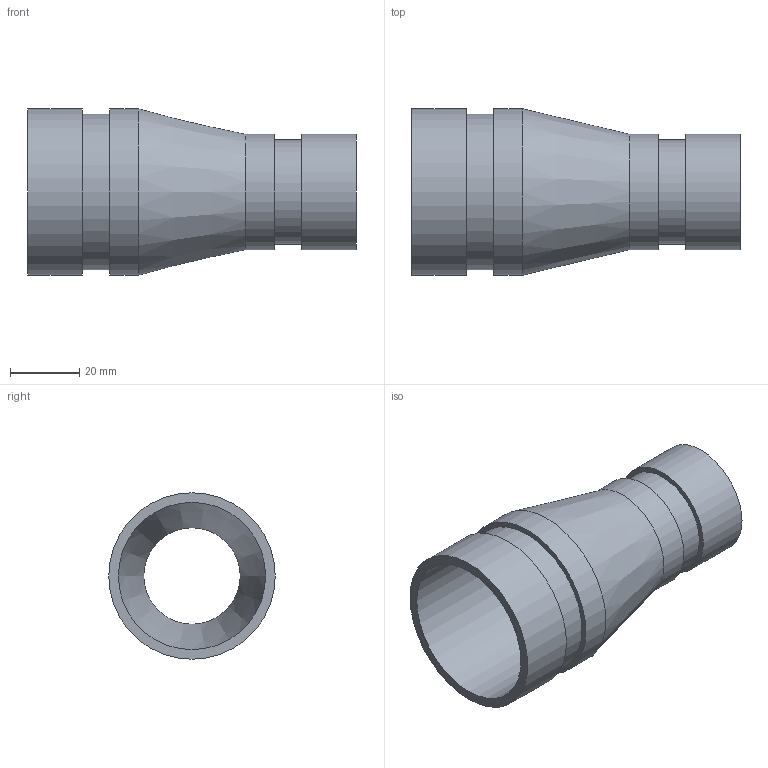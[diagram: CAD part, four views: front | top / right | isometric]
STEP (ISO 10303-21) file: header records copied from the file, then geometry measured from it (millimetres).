
FILE_DESCRIPTION(/* description */ ('VIC REDUCER CONCENTRIC No 450-SS','CAx-IF Rec.Pracs.---Representation and Presentation of Product Manufacturing Information (PMI)---4.0---2014-10-13'),/* implementation_level */ '2;1');
FILE_NAME(/* name */ 'C:\Users\kkamble\AppData\Roaming\Autodesk\ApplicationPlugins\Back Up\Victaulic_SS-OGS_Reducer Concentric_Sched 10S_No 450 SS (OGS)\Victaulic_SS-OGS_Reducer Concentric_Sched 10S_No 450 SS (OGS)_01.5x01.0 (40x25).stp',/* time_stamp */ '2020-09-08T12:31:48+05:00',/* author */ ('CORINNE GRAY'),/* organization */ ('Victaulic'),/* preprocessor_version */ 'ST-DEVELOPER v17.2',/* originating_system */ 'Autodesk Inventor 2019',/* authorisation */ '');
FILE_SCHEMA (('AP242_MANAGED_MODEL_BASED_3D_ENGINEERING_MIM_LF { 1 0 10303 442 1 1 4 }'));
Length unit declared in the file: inch
Products named in the file (1): 450 SS-01.5x01.0
Bounding box: 95.25 x 48.26 x 48.26 mm (x, y, z)
Volume: 28408.9 mm3; surface area: 24276 mm2
Topology: 1 solids, 1 shells, 16 faces, 42 edges, 32 vertices
Faces by surface type: cylinder 8, plane 6, cone 2
Full cylindrical faces by diameter (mm): 27.94 x1, 30.226 x1, 33.401 x2, 42.672 x1, 45.085 x1, 48.26 x2
Entity records: 686 total; most frequent: DIRECTION 134, CARTESIAN_POINT 108, ORIENTED_EDGE 84, AXIS2_PLACEMENT_3D 62, EDGE_CURVE 42, CIRCLE 32, VERTEX_POINT 32, EDGE_LOOP 22
